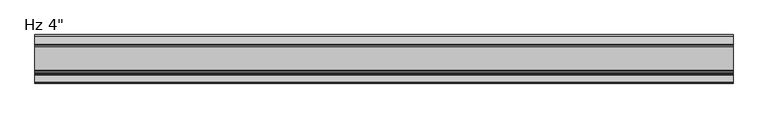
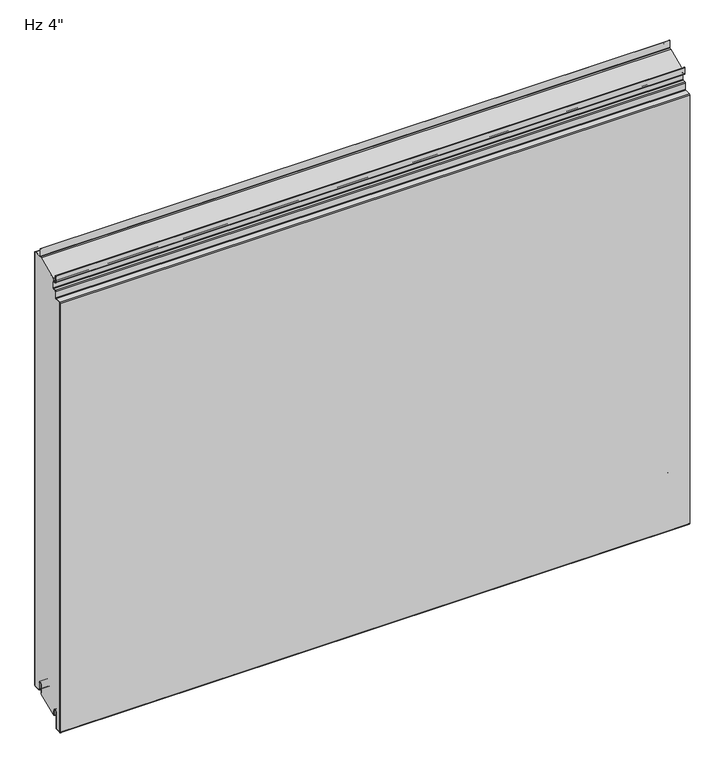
"""IFC4 building model written with IfcOpenShell, lengths in millimetres: plate geometry."""

import ifcopenshell
import ifcopenshell.guid

model = None  # the IFC model being written
_history = None  # IfcOwnerHistory: only IFC2X3 demands one
_inside = {}  # id of a spatial element -> (the spatial element, [elements in it])
_under = {}  # id of a project, library or spatial element -> (it, [spatial elements below it])
_declared = {}  # id of a project -> (the project, [libraries it declares])
_typed = {}  # id of a type object -> (the type object, [elements of that type])
_made_of = {}  # id of a material, layer set ... -> (it, [elements and type objects made of it])


def new_model(schema):
    """Start an empty IFC model of exactly this schema.

    Asked for "IFC4X3", IfcOpenShell would pick the latest addendum, in which some entities
    have other attributes; the version numbers below select the first issue.
    IFC2X3 requires an IfcOwnerHistory on every rooted entity: one is made here for all.
    """
    global model, _history
    if schema == "IFC4X3":
        model = ifcopenshell.file(schema_version=(4, 3, 0, 0))
    else:
        model = ifcopenshell.file(schema=schema)
    _inside.clear()
    _under.clear()
    _declared.clear()
    _typed.clear()
    _made_of.clear()
    _history = None
    if model.schema == "IFC2X3":
        org = make("IfcOrganization", Name="unknown")
        user = make(
            "IfcPersonAndOrganization",
            ThePerson=make("IfcPerson", FamilyName="unknown"),
            TheOrganization=org,
        )
        app = make(
            "IfcApplication",
            ApplicationDeveloper=org,
            Version="unknown",
            ApplicationFullName="unknown",
            ApplicationIdentifier="unknown",
        )
        _history = make(
            "IfcOwnerHistory",
            OwningUser=user,
            OwningApplication=app,
            ChangeAction="ADDED",
            CreationDate=0,
        )
    return model


def make(cls, **values):
    """One entity of the class cls with the attributes given. An attribute that is None is left unset."""
    return model.create_entity(
        cls, **{name: value for name, value in values.items() if value is not None}
    )


def rooted(cls, **values):
    """An entity with a GlobalId (a new one), such as an element, a storey or a relation."""
    return make(cls, GlobalId=ifcopenshell.guid.new(), OwnerHistory=_history, **values)


def si_unit(unit_type, name, prefix=None):
    """IfcSIUnit, for example si_unit("LENGTHUNIT", "METRE", prefix="MILLI")."""
    return make("IfcSIUnit", UnitType=unit_type, Prefix=prefix, Name=name)


def assignment(units):
    """IfcUnitAssignment: the units of a project."""
    return None if units is None else make("IfcUnitAssignment", Units=units)


def point(xyz):
    """IfcCartesianPoint."""
    return None if xyz is None else make("IfcCartesianPoint", Coordinates=xyz)


def direction(xyz):
    """IfcDirection."""
    return None if xyz is None else make("IfcDirection", DirectionRatios=xyz)


def frame(location, z_axis=None, x_axis=None):
    """IfcAxis2Placement3D, a coordinate frame: its origin and axes. An axis left out is left unset."""
    return make(
        "IfcAxis2Placement3D",
        Location=point(location),
        Axis=direction(z_axis),
        RefDirection=direction(x_axis),
    )


def frame_2d(location, x_axis=None):
    """IfcAxis2Placement2D, a coordinate frame in the plane: its origin and x axis."""
    return make(
        "IfcAxis2Placement2D", Location=point(location), RefDirection=direction(x_axis)
    )


def origin():
    """The frame at (0, 0, 0) with its axes left unset."""
    return frame((0.0, 0.0, 0.0))


def place(relative_to, where):
    """IfcLocalPlacement: puts the frame where relative to a parent placement (None: the world)."""
    return make(
        "IfcLocalPlacement", PlacementRelTo=relative_to, RelativePlacement=where
    )


def context(
    kind, dimensions, precision=None, world=None, true_north=None, identifier=None
):
    """IfcGeometricRepresentationContext, for example the 3D "Model" context."""
    return make(
        "IfcGeometricRepresentationContext",
        ContextIdentifier=identifier,
        ContextType=kind,
        CoordinateSpaceDimension=dimensions,
        Precision=precision,
        WorldCoordinateSystem=world,
        TrueNorth=true_north,
    )


def project(units=None, contexts=None):
    """IfcProject with its units and contexts."""
    return rooted(
        "IfcProject",
        Name="project",
        RepresentationContexts=contexts,
        UnitsInContext=assignment(units),
    )


def spatial(cls, under=None, at=None, **own):
    """A site, building, storey or space (cls), placed at a placement, below another one or the project."""
    s = rooted(cls, ObjectPlacement=at, **own)
    if under is not None:
        _under.setdefault(under.id(), (under, []))[1].append(s)
    return s


def polyline(points):
    """IfcPolyline through the points."""
    return make("IfcPolyline", Points=[point(p) for p in points])


def circle_curve(where, radius):
    """IfcCircle in the frame where."""
    return make("IfcCircle", Position=where, Radius=radius)


def ellipse_curve(where, semi_axis1, semi_axis2):
    """IfcEllipse in the frame where."""
    return make(
        "IfcEllipse", Position=where, SemiAxis1=semi_axis1, SemiAxis2=semi_axis2
    )


def trimmed(basis, trim1, trim2, sense, master):
    """IfcTrimmedCurve: the piece of a basis curve between two trims."""
    return make(
        "IfcTrimmedCurve",
        BasisCurve=basis,
        Trim1=trim1,
        Trim2=trim2,
        SenseAgreement=sense,
        MasterRepresentation=master,
    )


def segment(curve, same_sense, transition):
    """IfcCompositeCurveSegment."""
    return make(
        "IfcCompositeCurveSegment",
        Transition=transition,
        SameSense=same_sense,
        ParentCurve=curve,
    )


def composite_curve(segments, self_intersect=None):
    """IfcCompositeCurve: segments joined end to end."""
    return make("IfcCompositeCurve", Segments=segments, SelfIntersect=self_intersect)


def outline(outer, holes=None, kind="AREA"):
    """IfcArbitraryClosedProfileDef: a profile drawn as a closed curve; with holes, ...WithVoids."""
    if holes is None:
        return make("IfcArbitraryClosedProfileDef", ProfileType=kind, OuterCurve=outer)
    return make(
        "IfcArbitraryProfileDefWithVoids",
        ProfileType=kind,
        OuterCurve=outer,
        InnerCurves=holes,
    )


def extrude(swept, where, along, depth):
    """IfcExtrudedAreaSolid: the profile swept, set in the frame where, extruded along a direction by depth."""
    return make(
        "IfcExtrudedAreaSolid",
        SweptArea=swept,
        Position=where,
        ExtrudedDirection=direction(along),
        Depth=depth,
    )


def shape(context_of_items, identifier, shape_type, items):
    """IfcShapeRepresentation: the items that make up one representation, for example the "Body"."""
    return make(
        "IfcShapeRepresentation",
        ContextOfItems=context_of_items,
        RepresentationIdentifier=identifier,
        RepresentationType=shape_type,
        Items=items,
    )


def source(mapping_origin, context_of_items, identifier, shape_type, items):
    """IfcRepresentationMap: a shape defined once, which mapped items show again and again."""
    return make(
        "IfcRepresentationMap",
        MappingOrigin=mapping_origin,
        MappedRepresentation=shape(context_of_items, identifier, shape_type, items),
    )


def transform(
    local_origin,
    x_axis=None,
    y_axis=None,
    z_axis=None,
    scale=None,
    scale2=None,
    scale3=None,
    uniform=True,
):
    """IfcCartesianTransformationOperator3D, or its non-uniform kind. x_axis, y_axis, z_axis: its Axis1, 2, 3."""
    if uniform:
        return make(
            "IfcCartesianTransformationOperator3D",
            Axis1=direction(x_axis),
            Axis2=direction(y_axis),
            LocalOrigin=point(local_origin),
            Scale=scale,
            Axis3=direction(z_axis),
        )
    return make(
        "IfcCartesianTransformationOperator3DnonUniform",
        Axis1=direction(x_axis),
        Axis2=direction(y_axis),
        LocalOrigin=point(local_origin),
        Scale=scale,
        Axis3=direction(z_axis),
        Scale2=scale2,
        Scale3=scale3,
    )


def mapped(mapping_source, mapping_target):
    """IfcMappedItem: shows the shape of a source again, moved by a transform."""
    return make(
        "IfcMappedItem", MappingSource=mapping_source, MappingTarget=mapping_target
    )


def made_of(thing, what):
    """Note that an element or type object is made of a material, layer set ...; save() writes the relation."""
    if what is not None:
        _made_of.setdefault(what.id(), (what, []))[1].append(thing)
    return thing


def element(
    cls,
    number,
    at=None,
    inside=None,
    cuts=None,
    type_object=None,
    material=None,
    context=None,
    identifier="Body",
    shape_type=None,
    held_by="IfcProductDefinitionShape",
    body=None,
    shapes=None,
    **own,
):
    """One element of the class cls, such as IfcWall. Its Tag is "e" and its number.

    at: its placement. inside: the storey or other place that contains it. cuts: it is an
    opening in that element (IfcRelVoidsElement). A single representation is given by context,
    identifier, shape_type and body (its items); several are given by shapes. held_by: the class
    of the entity that holds the representations. save() writes the other relations.
    """
    e = rooted(cls, Tag="e%d" % number, ObjectPlacement=at, **own)
    if body is not None:
        shapes = [shape(context, identifier, shape_type, body)]
    if shapes is not None:
        e.Representation = make(held_by, Representations=shapes)
    if inside is not None:
        _inside.setdefault(inside.id(), (inside, []))[1].append(e)
    if cuts is not None:
        rooted(
            "IfcRelVoidsElement", RelatingBuildingElement=cuts, RelatedOpeningElement=e
        )
    if type_object is not None:
        _typed.setdefault(type_object.id(), (type_object, []))[1].append(e)
    return made_of(e, material)


def aggregate(whole, parts):
    """IfcRelAggregates: a whole, such as a stair, and the parts it consists of."""
    return rooted("IfcRelAggregates", RelatingObject=whole, RelatedObjects=parts)


def save(model, path):
    """Write the relations noted so far, then the file.

    IfcRelAggregates (storeys below a building ...), IfcRelContainedInSpatialStructure (elements
    in a storey), IfcRelDefinesByType, IfcRelAssociatesMaterial and IfcRelDeclares: one each for
    every whole, place, type object, material and project.
    """
    for whole, parts in _under.values():
        aggregate(whole, parts)
    for where, things in _inside.values():
        rooted(
            "IfcRelContainedInSpatialStructure",
            RelatedElements=things,
            RelatingStructure=where,
        )
    for kind, things in _typed.values():
        rooted("IfcRelDefinesByType", RelatedObjects=things, RelatingType=kind)
    for what, things in _made_of.values():
        rooted("IfcRelAssociatesMaterial", RelatedObjects=things, RelatingMaterial=what)
    for by, libraries in _declared.values():
        rooted("IfcRelDeclares", RelatingContext=by, RelatedDefinitions=libraries)
    model.write(path)


def plane_surface(at):
    """IfcPlane: the flat surface through the origin of the frame at, square to its z axis."""
    return make("IfcPlane", Position=at)


def cylinder_surface(at, radius):
    """IfcCylindricalSurface: all points at the distance radius from the z axis of the frame at."""
    return make("IfcCylindricalSurface", Position=at, Radius=radius)


def revolved_surface(curve, axis_point, axis_direction):
    """IfcSurfaceOfRevolution: the curve turned about the line through axis_point along axis_direction."""
    return make(
        "IfcSurfaceOfRevolution",
        SweptCurve=make("IfcArbitraryOpenProfileDef", ProfileType="CURVE", Curve=curve),
        AxisPosition=make("IfcAxis1Placement", Location=point(axis_point), Axis=direction(axis_direction)),
    )


def extruded_surface(curve, direction_of_extrusion, depth):
    """IfcSurfaceOfLinearExtrusion: the curve pushed along a direction by depth."""
    return make(
        "IfcSurfaceOfLinearExtrusion",
        SweptCurve=make("IfcArbitraryOpenProfileDef", ProfileType="CURVE", Curve=curve),
        ExtrudedDirection=direction(direction_of_extrusion),
        Depth=depth,
    )


def advanced_brep(points, edges, surfaces, faces):
    """IfcAdvancedBrep: a solid bounded by faces that lie on surfaces and meet in shared edges.

    An edge is (start, end): straight between two places in points (the first is 0);
    or (start, end, curve); or (start, end, curve, False) where it runs against its curve.
    A face is (place in surfaces, loops), or (place, loops, False) where it looks against
    its surface's normal. A loop lists edges by number (the first is 1), with a minus sign
    where the edge is run from its end to its start. The first loop is the outer one.
    """
    corners = [point(p) for p in points]
    vertices = [make("IfcVertexPoint", VertexGeometry=c) for c in corners]
    made = []
    for start, end, *more in edges:
        made.append(
            make(
                "IfcEdgeCurve",
                EdgeStart=vertices[start],
                EdgeEnd=vertices[end],
                EdgeGeometry=more[0] if more else make("IfcPolyline", Points=[corners[start], corners[end]]),
                SameSense=more[1] if len(more) > 1 else True,
            )
        )
    hull = []
    for where, loops, *sense in faces:
        bounds = []
        for j, loop in enumerate(loops):
            ring = [make("IfcOrientedEdge", EdgeElement=made[abs(k) - 1], Orientation=k > 0) for k in loop]
            bounds.append(
                make(
                    "IfcFaceOuterBound" if j == 0 else "IfcFaceBound",
                    Bound=make("IfcEdgeLoop", EdgeList=ring),
                    Orientation=True,
                )
            )
        hull.append(make("IfcAdvancedFace", Bounds=bounds, FaceSurface=surfaces[where], SameSense=sense[0] if sense else True))
    return make("IfcAdvancedBrep", Outer=make("IfcClosedShell", CfsFaces=hull))


def plate_be580332(model_context):
    return source(origin(), model_context, "Body", "SolidModel", [
        extrude(outline(composite_curve([segment(trimmed(circle_curve(frame_2d((-21.43125, 19.05)), 4.96875), [point((-16.4625, 19.05))], [point((-26.4, 19.05))], True, "CARTESIAN"), True, "CONTINUOUS"), segment(polyline([(-26.4, 19.05), (-26.4, -3.1323422), (-74.6157227, -23.01875), (-76.2, -23.01875), (-76.2, -13.5080174), (-76.99375, -13.5080174), (-76.7875, -11.9205174)]), True, "CONTINUOUS"), segment(trimmed(circle_curve(frame_2d((-81.75625, -11.9205174)), 4.96875), [point((-76.7875, -11.9205174))], [point((-86.725, -11.9205174))], True, "CARTESIAN"), True, "CONTINUOUS"), segment(polyline([(-86.725, -11.9205174), (-86.725, -50.1038221)]), True, "CONTINUOUS"), segment(trimmed(circle_curve(frame_2d((-88.10625, -50.1038221)), 1.38125), [point((-86.725, -50.1038221))], [point((-88.033961, -51.4831791))], False, "CARTESIAN"), True, "CONTINUOUS"), segment(polyline([(-88.033961, -51.4831791), (-99.146461, -52.0655606)]), True, "CONTINUOUS"), segment(trimmed(circle_curve(frame_2d((-99.21875, -50.6862035)), 1.38125), [point((-99.146461, -52.0655606))], [point((-100.6, -50.6862035))], False, "CARTESIAN"), True, "CONTINUOUS"), segment(polyline([(-100.6, -50.6862035), (-100.6, 998.6447607)]), True, "CONTINUOUS"), segment(trimmed(circle_curve(frame_2d((-99.21875, 998.6447607)), 1.38125), [point((-100.6, 998.6447607))], [point((-99.291039, 1000.0241177))], False, "CARTESIAN"), True, "CONTINUOUS"), segment(polyline([(-99.291039, 1000.0241177), (-85.5895807, 1000.7421807)]), True, "CONTINUOUS"), segment(trimmed(circle_curve(frame_2d((-85.725, 1003.3261347)), 2.5875), [point((-85.5895807, 1000.7421807))], [point((-83.1375, 1003.3261347))], True, "CARTESIAN"), True, "CONTINUOUS"), segment(polyline([(-83.1375, 1003.3261347), (-83.1375, 1017.4824411)]), True, "CONTINUOUS"), segment(trimmed(circle_curve(frame_2d((-81.75625, 1017.4824411)), 1.38125), [point((-83.1375, 1017.4824411))], [point((-81.828539, 1018.8617981))], False, "CARTESIAN"), True, "CONTINUOUS"), segment(polyline([(-81.828539, 1018.8617981), (-76.0645807, 1019.1638744)]), True, "CONTINUOUS"), segment(trimmed(circle_curve(frame_2d((-76.2, 1021.7478283)), 2.5875), [point((-76.0645807, 1019.1638744))], [point((-73.6125, 1021.7478283))], True, "CARTESIAN"), True, "CONTINUOUS"), segment(polyline([(-73.6125, 1021.7478283), (-73.6125, 1044.1892934), (-24.9057308, 1065.00625), (-2.38125, 1065.00625)]), True, "CONTINUOUS"), segment(trimmed(circle_curve(frame_2d((-2.38125, 1063.625)), 1.38125), [point((-2.38125, 1065.00625))], [point((-1.0, 1063.625))], False, "CARTESIAN"), True, "CONTINUOUS"), segment(polyline([(-1.0, 1063.625), (-1.0, 3.175)]), True, "CONTINUOUS"), segment(trimmed(circle_curve(frame_2d((-2.38125, 3.175)), 1.38125), [point((-1.0, 3.175))], [point((-2.38125, 1.79375))], False, "CARTESIAN"), True, "CONTINUOUS"), segment(polyline([(-2.38125, 1.79375), (-15.08125, 1.79375)]), True, "CONTINUOUS"), segment(trimmed(circle_curve(frame_2d((-15.08125, 3.175)), 1.38125), [point((-15.08125, 1.79375))], [point((-16.4625, 3.175))], False, "CARTESIAN"), True, "CONTINUOUS"), segment(polyline([(-16.4625, 3.175), (-16.4625, 19.05)]), True, "CONTINUOUS")], self_intersect=False)), frame((-730.0, 0.0, 0.0), z_axis=(1.0, 0.0, 0.0), x_axis=(0.0, 1.0, 0.0)), (0.0, 0.0, 1.0), 1460.0),
        extrude(outline(composite_curve([segment(polyline([(-25.4, 0.79375), (-26.4, 0.79375), (-26.4, 19.05)]), True, "CONTINUOUS"), segment(trimmed(circle_curve(frame_2d((-21.43125, 19.05)), 4.96875), [point((-26.4, 19.05))], [point((-16.4625, 19.05))], False, "CARTESIAN"), True, "CONTINUOUS"), segment(polyline([(-16.4625, 19.05), (-16.4625, 3.175)]), True, "CONTINUOUS"), segment(trimmed(circle_curve(frame_2d((-15.08125, 3.175)), 1.38125), [point((-16.4625, 3.175))], [point((-15.08125, 1.79375))], True, "CARTESIAN"), True, "CONTINUOUS"), segment(polyline([(-15.08125, 1.79375), (-2.38125, 1.79375)]), True, "CONTINUOUS"), segment(trimmed(circle_curve(frame_2d((-2.38125, 3.175)), 1.38125), [point((-2.38125, 1.79375))], [point((-1.0, 3.175))], True, "CARTESIAN"), True, "CONTINUOUS"), segment(polyline([(-1.0, 3.175), (-1.0, 1063.625)]), True, "CONTINUOUS"), segment(trimmed(circle_curve(frame_2d((-2.38125, 1063.625)), 1.38125), [point((-1.0, 1063.625))], [point((-2.38125, 1065.00625))], True, "CARTESIAN"), True, "CONTINUOUS"), segment(polyline([(-2.38125, 1065.00625), (-19.446875, 1065.00625)]), True, "CONTINUOUS"), segment(trimmed(circle_curve(frame_2d((-19.446875, 1067.59375)), 2.5875), [point((-19.446875, 1065.00625))], [point((-22.034375, 1067.59375))], False, "CARTESIAN"), True, "CONTINUOUS"), segment(polyline([(-22.034375, 1067.59375), (-22.034375, 1085.05625), (-21.034375, 1085.05625), (-21.034375, 1067.59375)]), True, "CONTINUOUS"), segment(trimmed(circle_curve(frame_2d((-19.446875, 1067.59375)), 1.5875), [point((-21.034375, 1067.59375))], [point((-19.446875, 1066.00625))], True, "CARTESIAN"), True, "CONTINUOUS"), segment(polyline([(-19.446875, 1066.00625), (-2.38125, 1066.00625)]), True, "CONTINUOUS"), segment(trimmed(circle_curve(frame_2d((-2.38125, 1063.625)), 2.38125), [point((-2.38125, 1066.00625))], [point((0.0, 1063.625))], False, "CARTESIAN"), True, "CONTINUOUS"), segment(polyline([(0.0, 1063.625), (0.0, 3.175)]), True, "CONTINUOUS"), segment(trimmed(circle_curve(frame_2d((-2.38125, 3.175)), 2.38125), [point((0.0, 3.175))], [point((-2.38125, 0.79375))], False, "CARTESIAN"), True, "CONTINUOUS"), segment(polyline([(-2.38125, 0.79375), (-15.08125, 0.79375)]), True, "CONTINUOUS"), segment(trimmed(circle_curve(frame_2d((-15.08125, 3.175)), 2.38125), [point((-15.08125, 0.79375))], [point((-17.4625, 3.175))], False, "CARTESIAN"), True, "CONTINUOUS"), segment(polyline([(-17.4625, 3.175), (-17.4625, 19.05)]), True, "CONTINUOUS"), segment(trimmed(circle_curve(frame_2d((-21.43125, 19.05)), 3.96875), [point((-17.4625, 19.05))], [point((-25.4, 19.05))], True, "CARTESIAN"), True, "CONTINUOUS"), segment(polyline([(-25.4, 19.05), (-25.4, 0.79375)]), True, "CONTINUOUS")], self_intersect=False)), frame((-730.0, 0.0, 0.0), z_axis=(1.0, 0.0, 0.0), x_axis=(0.0, 1.0, 0.0)), (0.0, 0.0, 1.0), 1460.0),
        advanced_brep(
        [(-730.0, -76.2, -23.2314549), (-730.0, -77.7875, -23.2314549), (-730.0, -77.7875, -11.9205174), (-730.0, -85.725, -11.9205174), (-730.0, -85.725, -50.1038221), (-730.0, -87.981625, -52.4818086), (-730.0, -99.094125, -53.0641901), (-730.0, -101.6, -50.6862035), (-730.0, -101.6, 998.6447607), (-730.0, -99.343375, 1001.0227473), (-730.0, -85.6419167, 1001.7408103), (-730.0, -84.1375, 1003.3261347), (-730.0, -84.1375, 1017.4824411), (-730.0, -81.880875, 1019.8604276), (-730.0, -76.1169167, 1020.1625039), (-730.0, -74.6125, 1021.7478283), (-730.0, -74.6125, 1036.6232326), (-730.0, -76.2, 1038.2107326), (-730.0, -80.3671875, 1038.2107326), (-730.0, -82.7484375, 1040.5919826), (-730.0, -82.7484375, 1055.0836032), (-730.0, -80.9546875, 1055.0836032), (-730.0, -80.9546875, 1045.3544826), (-730.0, -81.7484375, 1045.3544826), (-730.0, -81.7484375, 1040.5919826), (-730.0, -80.3671875, 1039.2107326), (-730.0, -76.2, 1039.2107326), (-730.0, -73.6125, 1036.6232326), (-730.0, -73.6125, 1021.7478283), (-730.0, -76.0645807, 1019.1638744), (-730.0, -81.828539, 1018.8617981), (-730.0, -83.1375, 1017.4824411), (-730.0, -83.1375, 1003.3261347), (-730.0, -85.5895807, 1000.7421807), (-730.0, -99.291039, 1000.0241177), (-730.0, -100.6, 998.6447607), (-730.0, -100.6, -50.6862035), (-730.0, -99.146461, -52.0655606), (-730.0, -88.033961, -51.4831791), (-730.0, -86.725, -50.1038221), (-730.0, -86.725, -11.9205174), (-730.0, -76.7875, -11.9205174), (-730.0, -76.99375, -13.5080174), (-730.0, -76.2, -13.5080174), (730.0, -76.2, -23.2314549), (730.0, -76.2, -13.5080174), (730.0, -76.99375, -13.5080174), (730.0, -76.7875, -11.9205174), (730.0, -86.725, -11.9205174), (730.0, -86.725, -50.1038221), (730.0, -88.033961, -51.4831791), (730.0, -99.146461, -52.0655606), (730.0, -100.6, -50.6862035), (730.0, -100.6, 998.6447607), (730.0, -99.291039, 1000.0241177), (730.0, -85.5895807, 1000.7421807), (730.0, -83.1375, 1003.3261347), (730.0, -83.1375, 1017.4824411), (730.0, -81.828539, 1018.8617981), (730.0, -76.0645807, 1019.1638744), (730.0, -73.6125, 1021.7478283), (730.0, -73.6125, 1036.6232326), (730.0, -76.2, 1039.2107326), (730.0, -80.3671875, 1039.2107326), (730.0, -81.7484375, 1040.5919826), (730.0, -81.7484375, 1045.3544826), (730.0, -80.9546875, 1045.3544826), (730.0, -80.9546875, 1055.0836032), (730.0, -82.7484375, 1055.0836032), (730.0, -82.7484375, 1040.5919826), (730.0, -80.3671875, 1038.2107326), (730.0, -76.2, 1038.2107326), (730.0, -74.6125, 1036.6232326), (730.0, -74.6125, 1021.7478283), (730.0, -76.1169167, 1020.1625039), (730.0, -81.880875, 1019.8604276), (730.0, -84.1375, 1017.4824411), (730.0, -84.1375, 1003.3261347), (730.0, -85.6419167, 1001.7408103), (730.0, -99.343375, 1001.0227473), (730.0, -101.6, 998.6447607), (730.0, -101.6, -50.6862035), (730.0, -99.094125, -53.0641901), (730.0, -87.981625, -52.4818086), (730.0, -85.725, -50.1038221), (730.0, -85.725, -11.9205174), (730.0, -77.7875, -11.9205174), (730.0, -77.7875, -23.2314549)],
        [
            (0, 1, circle_curve(frame((-730.0, -76.99375, -23.2314549), z_axis=(-1.0, 0.0, 0.0), x_axis=(0.0, 0.0, -1.0)), 0.79375)),
            (1, 2),
            (2, 3, circle_curve(frame((-730.0, -81.75625, -11.9205174), z_axis=(1.0, 0.0, 0.0), x_axis=(0.0, 0.0, -1.0)), 3.96875)),
            (3, 4),
            (4, 5, circle_curve(frame((-730.0, -88.10625, -50.1038221), z_axis=(-1.0, 0.0, 0.0), x_axis=(0.0, 0.0, -1.0)), 2.38125)),
            (5, 6),
            (6, 7, circle_curve(frame((-730.0, -99.21875, -50.6862035), z_axis=(-1.0, 0.0, 0.0), x_axis=(0.0, 0.0, -1.0)), 2.38125)),
            (7, 8),
            (8, 9, circle_curve(frame((-730.0, -99.21875, 998.6447607), z_axis=(-1.0, 0.0, 0.0), x_axis=(0.0, 0.0, -1.0)), 2.38125)),
            (9, 10),
            (10, 11, circle_curve(frame((-730.0, -85.725, 1003.3261347), z_axis=(1.0, 0.0, 0.0), x_axis=(0.0, 0.0, -1.0)), 1.5875)),
            (11, 12),
            (12, 13, circle_curve(frame((-730.0, -81.75625, 1017.4824411), z_axis=(-1.0, 0.0, 0.0), x_axis=(0.0, 0.0, -1.0)), 2.38125)),
            (13, 14),
            (14, 15, circle_curve(frame((-730.0, -76.2, 1021.7478283), z_axis=(1.0, 0.0, 0.0), x_axis=(0.0, 0.0, -1.0)), 1.5875)),
            (15, 16),
            (16, 17, circle_curve(frame((-730.0, -76.2, 1036.6232326), z_axis=(1.0, 0.0, 0.0), x_axis=(0.0, 0.0, -1.0)), 1.5875)),
            (17, 18),
            (18, 19, circle_curve(frame((-730.0, -80.3671875, 1040.5919826), z_axis=(-1.0, 0.0, 0.0), x_axis=(0.0, 0.0, -1.0)), 2.38125)),
            (19, 20),
            (20, 21, ellipse_curve(frame((-730.0, -81.8515625, 1055.0836032), z_axis=(-1.0, 0.0, 0.0), x_axis=(0.0, 1.0, 0.0)), 0.896875, 0.7852275)),
            (21, 22),
            (22, 23),
            (23, 24),
            (24, 25, circle_curve(frame((-730.0, -80.3671875, 1040.5919826), z_axis=(1.0, 0.0, 0.0), x_axis=(0.0, 0.0, -1.0)), 1.38125)),
            (25, 26),
            (26, 27, circle_curve(frame((-730.0, -76.2, 1036.6232326), z_axis=(-1.0, 0.0, 0.0), x_axis=(0.0, 0.0, -1.0)), 2.5875)),
            (27, 28),
            (28, 29, circle_curve(frame((-730.0, -76.2, 1021.7478283), z_axis=(-1.0, 0.0, 0.0), x_axis=(0.0, 0.0, -1.0)), 2.5875)),
            (29, 30),
            (30, 31, circle_curve(frame((-730.0, -81.75625, 1017.4824411), z_axis=(1.0, 0.0, 0.0), x_axis=(0.0, 0.0, -1.0)), 1.38125)),
            (31, 32),
            (32, 33, circle_curve(frame((-730.0, -85.725, 1003.3261347), z_axis=(-1.0, 0.0, 0.0), x_axis=(0.0, 0.0, -1.0)), 2.5875)),
            (33, 34),
            (34, 35, circle_curve(frame((-730.0, -99.21875, 998.6447607), z_axis=(1.0, 0.0, 0.0), x_axis=(0.0, 0.0, -1.0)), 1.38125)),
            (35, 36),
            (36, 37, circle_curve(frame((-730.0, -99.21875, -50.6862035), z_axis=(1.0, 0.0, 0.0), x_axis=(0.0, 0.0, -1.0)), 1.38125)),
            (37, 38),
            (38, 39, circle_curve(frame((-730.0, -88.10625, -50.1038221), z_axis=(1.0, 0.0, 0.0), x_axis=(0.0, 0.0, -1.0)), 1.38125)),
            (39, 40),
            (40, 41, circle_curve(frame((-730.0, -81.75625, -11.9205174), z_axis=(-1.0, 0.0, 0.0), x_axis=(0.0, 0.0, -1.0)), 4.96875)),
            (41, 42),
            (42, 43),
            (43, 0),
            (44, 45),
            (45, 46),
            (46, 47),
            (47, 48, circle_curve(frame((730.0, -81.75625, -11.9205174), z_axis=(1.0, 0.0, 0.0), x_axis=(0.0, 0.0, -1.0)), 4.96875)),
            (48, 49),
            (49, 50, circle_curve(frame((730.0, -88.10625, -50.1038221), z_axis=(-1.0, 0.0, 0.0), x_axis=(0.0, 0.0, -1.0)), 1.38125)),
            (50, 51),
            (51, 52, circle_curve(frame((730.0, -99.21875, -50.6862035), z_axis=(-1.0, 0.0, 0.0), x_axis=(0.0, 0.0, -1.0)), 1.38125)),
            (52, 53),
            (53, 54, circle_curve(frame((730.0, -99.21875, 998.6447607), z_axis=(-1.0, 0.0, 0.0), x_axis=(0.0, 0.0, -1.0)), 1.38125)),
            (54, 55),
            (55, 56, circle_curve(frame((730.0, -85.725, 1003.3261347), z_axis=(1.0, 0.0, 0.0), x_axis=(0.0, 0.0, -1.0)), 2.5875)),
            (56, 57),
            (57, 58, circle_curve(frame((730.0, -81.75625, 1017.4824411), z_axis=(-1.0, 0.0, 0.0), x_axis=(0.0, 0.0, -1.0)), 1.38125)),
            (58, 59),
            (59, 60, circle_curve(frame((730.0, -76.2, 1021.7478283), z_axis=(1.0, 0.0, 0.0), x_axis=(0.0, 0.0, -1.0)), 2.5875)),
            (60, 61),
            (61, 62, circle_curve(frame((730.0, -76.2, 1036.6232326), z_axis=(1.0, 0.0, 0.0), x_axis=(0.0, 0.0, -1.0)), 2.5875)),
            (62, 63),
            (63, 64, circle_curve(frame((730.0, -80.3671875, 1040.5919826), z_axis=(-1.0, 0.0, 0.0), x_axis=(0.0, 0.0, -1.0)), 1.38125)),
            (64, 65),
            (65, 66),
            (66, 67),
            (67, 68, ellipse_curve(frame((730.0, -81.8515625, 1055.0836032), z_axis=(1.0, 0.0, 0.0), x_axis=(0.0, 1.0, 0.0)), 0.896875, 0.7852275)),
            (68, 69),
            (69, 70, circle_curve(frame((730.0, -80.3671875, 1040.5919826), z_axis=(1.0, 0.0, 0.0), x_axis=(0.0, 0.0, -1.0)), 2.38125)),
            (70, 71),
            (71, 72, circle_curve(frame((730.0, -76.2, 1036.6232326), z_axis=(-1.0, 0.0, 0.0), x_axis=(0.0, 0.0, -1.0)), 1.5875)),
            (72, 73),
            (73, 74, circle_curve(frame((730.0, -76.2, 1021.7478283), z_axis=(-1.0, 0.0, 0.0), x_axis=(0.0, 0.0, -1.0)), 1.5875)),
            (74, 75),
            (75, 76, circle_curve(frame((730.0, -81.75625, 1017.4824411), z_axis=(1.0, 0.0, 0.0), x_axis=(0.0, 0.0, -1.0)), 2.38125)),
            (76, 77),
            (77, 78, circle_curve(frame((730.0, -85.725, 1003.3261347), z_axis=(-1.0, 0.0, 0.0), x_axis=(0.0, 0.0, -1.0)), 1.5875)),
            (78, 79),
            (79, 80, circle_curve(frame((730.0, -99.21875, 998.6447607), z_axis=(1.0, 0.0, 0.0), x_axis=(0.0, 0.0, -1.0)), 2.38125)),
            (80, 81),
            (81, 82, circle_curve(frame((730.0, -99.21875, -50.6862035), z_axis=(1.0, 0.0, 0.0), x_axis=(0.0, 0.0, -1.0)), 2.38125)),
            (82, 83),
            (83, 84, circle_curve(frame((730.0, -88.10625, -50.1038221), z_axis=(1.0, 0.0, 0.0), x_axis=(0.0, 0.0, -1.0)), 2.38125)),
            (84, 85),
            (85, 86, circle_curve(frame((730.0, -81.75625, -11.9205174), z_axis=(-1.0, 0.0, 0.0), x_axis=(0.0, 0.0, -1.0)), 3.96875)),
            (86, 87),
            (87, 44, circle_curve(frame((730.0, -76.99375, -23.2314549), z_axis=(1.0, 0.0, 0.0), x_axis=(0.0, 0.0, -1.0)), 0.79375)),
            (36, 52),
            (51, 37),
            (50, 38),
            (49, 39),
            (48, 40),
            (47, 41),
            (42, 46),
            (45, 43),
            (22, 66),
            (65, 23),
            (21, 67),
            (20, 68),
            (34, 54),
            (53, 35),
            (32, 56),
            (55, 33),
            (30, 58),
            (57, 31),
            (28, 60),
            (59, 29),
            (24, 64),
            (63, 25),
            (26, 62),
            (61, 27),
            (19, 69),
            (17, 71),
            (70, 18),
            (15, 73),
            (72, 16),
            (13, 75),
            (74, 14),
            (11, 77),
            (76, 12),
            (9, 79),
            (78, 10),
            (7, 81),
            (80, 8),
            (5, 83),
            (82, 6),
            (3, 85),
            (84, 4),
            (1, 87),
            (86, 2),
            (44, 0),
        ],
        [
            plane_surface(frame((-730.0, -101.6, 533.4), z_axis=(-1.0, 0.0, 0.0), x_axis=(0.0, -1.0, 0.0))),
            plane_surface(frame((730.0, -101.6, 533.4), z_axis=(1.0, 0.0, 0.0), x_axis=(0.0, -1.0, 0.0))),
            revolved_surface(polyline([(730.0, -99.21875, -52.0674535), (-730.0, -99.21875, -52.0674535)]), (-730.0, -99.21875, -50.6862035), (1.0, 0.0, 0.0)),
            plane_surface(frame((-730.0, -88.033961, -51.4831791), z_axis=(0.0, -0.05233595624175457, 0.9986295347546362), x_axis=(1.0, 0.0, 0.0))),
            revolved_surface(polyline([(730.0, -88.10625, -51.485072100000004), (-730.0, -88.10625, -51.485072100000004)]), (-730.0, -88.10625, -50.1038221), (1.0, 0.0, 0.0)),
            plane_surface(frame((-730.0, -86.725, -11.9205174), z_axis=(0.0, -1.0, 0.0), x_axis=(1.0, 0.0, 0.0))),
            cylinder_surface(frame((-730.0, -81.75625, -11.9205174), z_axis=(-1.0, 0.0, 0.0), x_axis=(0.0, 0.0, -1.0)), 4.96875),
            plane_surface(frame((-730.0, -76.2, -13.5080174), z_axis=(0.0, 0.0, 1.0), x_axis=(1.0, 0.0, 0.0))),
            plane_surface(frame((-730.0, -76.99375, -13.5080174), z_axis=(0.0, 0.9916655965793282, -0.1288384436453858), x_axis=(1.0, 0.0, 0.0))),
            plane_surface(frame((-730.0, -81.7484375, 1045.3544826), z_axis=(0.0, 0.0, -1.0), x_axis=(1.0, 0.0, 0.0))),
            plane_surface(frame((-730.0, -80.9546875, 1045.3544826), z_axis=(0.0, 1.0, 0.0), x_axis=(1.0, 0.0, 0.0))),
            extruded_surface(trimmed(ellipse_curve(frame((-730.0, -81.8515625, 1055.0836032), z_axis=(1.0, 0.0, 0.0), x_axis=(0.0, 1.0, 0.0)), 0.896875, 0.7852275), [point((-730.0, -80.9546875, 1055.0836032))], [point((-730.0, -82.7484375, 1055.0836032))], True, "CARTESIAN"), (1460.0, 0.0, 0.0), 1460.0),
            revolved_surface(polyline([(730.0, -99.21875, 997.2635107), (-730.0, -99.21875, 997.2635107)]), (-730.0, -99.21875, 998.6447607), (1.0, 0.0, 0.0)),
            cylinder_surface(frame((-730.0, -85.725, 1003.3261347), z_axis=(-1.0, 0.0, 0.0), x_axis=(0.0, 0.0, -1.0)), 2.5875),
            plane_surface(frame((-730.0, -99.291039, 1000.0241177), z_axis=(0.0, 0.05233595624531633, -0.9986295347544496), x_axis=(1.0, 0.0, 0.0))),
            plane_surface(frame((-730.0, -100.6, -50.6862035), z_axis=(0.0, 1.0, 0.0), x_axis=(1.0, 0.0, 0.0))),
            revolved_surface(polyline([(730.0, -81.75625, 1016.1011910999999), (-730.0, -81.75625, 1016.1011910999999)]), (-730.0, -81.75625, 1017.4824411), (1.0, 0.0, 0.0)),
            cylinder_surface(frame((-730.0, -76.2, 1021.7478283), z_axis=(-1.0, 0.0, 0.0), x_axis=(0.0, 0.0, -1.0)), 2.5875),
            plane_surface(frame((-730.0, -81.828539, 1018.8617981), z_axis=(0.0, 0.052335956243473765, -0.9986295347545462), x_axis=(1.0, 0.0, 0.0))),
            plane_surface(frame((-730.0, -83.1375, 1003.3261347), z_axis=(0.0, 1.0, 0.0), x_axis=(1.0, 0.0, 0.0))),
            revolved_surface(polyline([(730.0, -80.3671875, 1039.2107326), (-730.0, -80.3671875, 1039.2107326)]), (-730.0, -80.3671875, 1040.5919826), (1.0, 0.0, 0.0)),
            cylinder_surface(frame((-730.0, -76.2, 1036.6232326), z_axis=(-1.0, 0.0, 0.0), x_axis=(0.0, 0.0, -1.0)), 2.5875),
            plane_surface(frame((-730.0, -76.2, 1039.2107326), z_axis=(0.0, 0.0, 1.0), x_axis=(1.0, 0.0, 0.0))),
            plane_surface(frame((-730.0, -81.7484375, 1040.5919826), z_axis=(0.0, 1.0, 0.0), x_axis=(1.0, 0.0, 0.0))),
            plane_surface(frame((-730.0, -82.7484375, 1055.0836032), z_axis=(0.0, -1.0, 0.0), x_axis=(1.0, 0.0, 0.0))),
            plane_surface(frame((-730.0, -80.3671875, 1038.2107326), z_axis=(0.0, 0.0, -1.0), x_axis=(1.0, 0.0, 0.0))),
            cylinder_surface(frame((-730.0, -80.3671875, 1040.5919826), z_axis=(-1.0, 0.0, 0.0), x_axis=(0.0, 0.0, -1.0)), 2.38125),
            plane_surface(frame((-730.0, -73.6125, 1021.7478283), z_axis=(0.0, 1.0, 0.0), x_axis=(1.0, 0.0, 0.0))),
            plane_surface(frame((-730.0, -74.6125, 1036.6232326), z_axis=(0.0, -1.0, 0.0), x_axis=(1.0, 0.0, 0.0))),
            plane_surface(frame((-730.0, -76.1169167, 1020.1625039), z_axis=(0.0, -0.05233595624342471, 0.9986295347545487), x_axis=(1.0, 0.0, 0.0))),
            revolved_surface(polyline([(730.0, -76.2, 1020.1603283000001), (-730.0, -76.2, 1020.1603283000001)]), (-730.0, -76.2, 1021.7478283), (1.0, 0.0, 0.0)),
            revolved_surface(polyline([(730.0, -76.2, 1035.0357325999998), (-730.0, -76.2, 1035.0357325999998)]), (-730.0, -76.2, 1036.6232326), (1.0, 0.0, 0.0)),
            plane_surface(frame((-730.0, -84.1375, 1017.4824411), z_axis=(0.0, -1.0, 0.0), x_axis=(1.0, 0.0, 0.0))),
            plane_surface(frame((-730.0, -85.6419167, 1001.7408103), z_axis=(0.0, -0.05233595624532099, 0.9986295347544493), x_axis=(1.0, 0.0, 0.0))),
            revolved_surface(polyline([(730.0, -85.725, 1001.7386347), (-730.0, -85.725, 1001.7386347)]), (-730.0, -85.725, 1003.3261347), (1.0, 0.0, 0.0)),
            cylinder_surface(frame((-730.0, -81.75625, 1017.4824411), z_axis=(-1.0, 0.0, 0.0), x_axis=(0.0, 0.0, -1.0)), 2.38125),
            plane_surface(frame((-730.0, -101.6, 998.6447607), z_axis=(0.0, -1.0, 0.0), x_axis=(1.0, 0.0, 0.0))),
            plane_surface(frame((-730.0, -99.094125, -53.0641901), z_axis=(0.0, 0.05233595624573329, -0.9986295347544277), x_axis=(1.0, 0.0, 0.0))),
            cylinder_surface(frame((-730.0, -99.21875, -50.6862035), z_axis=(-1.0, 0.0, 0.0), x_axis=(0.0, 0.0, -1.0)), 2.38125),
            cylinder_surface(frame((-730.0, -99.21875, 998.6447607), z_axis=(-1.0, 0.0, 0.0), x_axis=(0.0, 0.0, -1.0)), 2.38125),
            plane_surface(frame((-730.0, -85.725, -50.1038221), z_axis=(0.0, 1.0, 0.0), x_axis=(1.0, 0.0, 0.0))),
            plane_surface(frame((-730.0, -77.7875, -11.9205174), z_axis=(0.0, -1.0, 0.0), x_axis=(1.0, 0.0, 0.0))),
            revolved_surface(polyline([(730.0, -81.75625, -15.8892674), (-730.0, -81.75625, -15.8892674)]), (-730.0, -81.75625, -11.9205174), (1.0, 0.0, 0.0)),
            cylinder_surface(frame((-730.0, -88.10625, -50.1038221), z_axis=(-1.0, 0.0, 0.0), x_axis=(0.0, 0.0, -1.0)), 2.38125),
            plane_surface(frame((-730.0, -76.2, -23.2314549), z_axis=(0.0, 1.0, 0.0), x_axis=(1.0, 0.0, 0.0))),
            cylinder_surface(frame((-730.0, -76.99375, -23.2314549), z_axis=(-1.0, 0.0, 0.0), x_axis=(0.0, 0.0, -1.0)), 0.79375),
        ],
        [
            (0, [[1, 2, 3, 4, 5, 6, 7, 8, 9, 10, 11, 12, 13, 14, 15, 16, 17, 18, 19, 20, 21, 22, 23, 24, 25, 26, 27, 28, 29, 30, 31, 32, 33, 34, 35, 36, 37, 38, 39, 40, 41, 42, 43, 44]]),
            (1, [[45, 46, 47, 48, 49, 50, 51, 52, 53, 54, 55, 56, 57, 58, 59, 60, 61, 62, 63, 64, 65, 66, 67, 68, 69, 70, 71, 72, 73, 74, 75, 76, 77, 78, 79, 80, 81, 82, 83, 84, 85, 86, 87, 88]]),
            (2, [[89, -52, 90, -37]]),
            (3, [[-90, -51, 91, -38]]),
            (4, [[-91, -50, 92, -39]]),
            (5, [[-92, -49, 93, -40]]),
            (6, [[-93, -48, 94, -41]]),
            (7, [[95, -46, 96, -43]]),
            (8, [[-94, -47, -95, -42]]),
            (9, [[97, -66, 98, -23]]),
            (10, [[99, -67, -97, -22]]),
            (11, [[100, -68, -99, -21]]),
            (12, [[101, -54, 102, -35]]),
            (13, [[103, -56, 104, -33]]),
            (14, [[-104, -55, -101, -34]]),
            (15, [[-102, -53, -89, -36]]),
            (16, [[105, -58, 106, -31]]),
            (17, [[107, -60, 108, -29]]),
            (18, [[-108, -59, -105, -30]]),
            (19, [[-106, -57, -103, -32]]),
            (20, [[109, -64, 110, -25]]),
            (21, [[111, -62, 112, -27]]),
            (22, [[-110, -63, -111, -26]]),
            (23, [[-98, -65, -109, -24]]),
            (24, [[113, -69, -100, -20]]),
            (25, [[114, -71, 115, -18]]),
            (26, [[-115, -70, -113, -19]]),
            (27, [[-112, -61, -107, -28]]),
            (28, [[116, -73, 117, -16]]),
            (29, [[118, -75, 119, -14]]),
            (30, [[-119, -74, -116, -15]]),
            (31, [[-117, -72, -114, -17]]),
            (32, [[120, -77, 121, -12]]),
            (33, [[122, -79, 123, -10]]),
            (34, [[-123, -78, -120, -11]]),
            (35, [[-121, -76, -118, -13]]),
            (36, [[124, -81, 125, -8]]),
            (37, [[126, -83, 127, -6]]),
            (38, [[-127, -82, -124, -7]]),
            (39, [[-125, -80, -122, -9]]),
            (40, [[128, -85, 129, -4]]),
            (41, [[130, -87, 131, -2]]),
            (42, [[-131, -86, -128, -3]]),
            (43, [[-129, -84, -126, -5]]),
            (44, [[-96, -45, 132, -44]]),
            (45, [[-132, -88, -130, -1]]),
        ],
    ),
    ])


if __name__ == "__main__":
    model = new_model("IFC4")
    model_context = context("Model", 3, world=origin())
    ifc_project = project(units=[si_unit("LENGTHUNIT", "METRE", prefix="MILLI")], contexts=[model_context])
    site = spatial("IfcSite", under=ifc_project)
    building = spatial("IfcBuilding", under=site)
    placement = place(None, origin())
    plate_shape = plate_be580332(model_context)
    element("IfcPlate", 1, ObjectType="KIP-42-DWHR-R19-CP-Hz-F : Hz 4\"", at=placement, inside=building, context=model_context, shape_type="MappedRepresentation", body=[
        mapped(plate_shape, transform((0.0, 0.0, 0.0), x_axis=(1.0, 0.0, 0.0), y_axis=(0.0, 1.0, 0.0), z_axis=(0.0, 0.0, 1.0))),
    ])
    save(model, "model.ifc")
